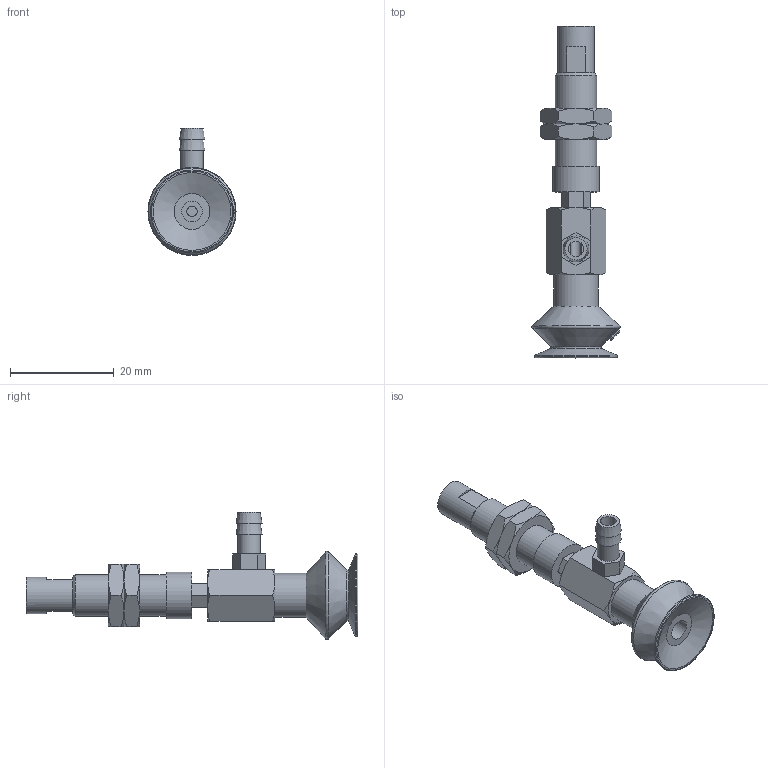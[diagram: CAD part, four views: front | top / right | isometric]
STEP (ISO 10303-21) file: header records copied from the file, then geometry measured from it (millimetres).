
FILE_DESCRIPTION(('STEP AP203'),'1');
FILE_NAME('-T.stp','2025-04-02T01:19:08',(' '),(' '),'Spatial InterOp 3D',' ',' ');
FILE_SCHEMA(('CONFIG_CONTROL_DESIGN'));
Length unit declared in the file: millimetre
Products named in the file (9): BNABPBYH-15A-3-※-T; CONNECTOR-15A-3-PB; Nut-15A-S-PB; NAPBTH-15A-3-FBODY; NAPBTH-15A-3-MBODY; BPBG-15A-※; __27; BPBG-15A; T
Assembly tree (9 placements, depth 3):
  BNABPBYH-15A-3-※-T
    CONNECTOR-15A-3-PB
    Nut-15A-S-PB  x2
    NAPBTH-15A-3-FBODY
    NAPBTH-15A-3-MBODY
    BPBG-15A-※
      __27
      BPBG-15A
    T
Bounding box: 17 x 64 x 24.5 mm (x, y, z)
Volume: 4653.7 mm3; surface area: 5267.1 mm2
Topology: 8 solids, 8 shells, 172 faces, 373 edges, 231 vertices
Faces by surface type: plane 76, cone 58, cylinder 19, torus 11, bspline 8
Full cylindrical faces by diameter (mm): 2 x1, 3 x1, 4 x3, 4.134 x2, 4.3 x1, 5 x2, 6 x2, 7 x1, 7.188 x2, 8 x1, 8.5 x1, 9 x1, 16 x1
Entity records: 5543 total; most frequent: CARTESIAN_POINT 2148, DIRECTION 597, ORIENTED_EDGE 536, EDGE_CURVE 268, AXIS2_PLACEMENT_3D 248, EDGE_LOOP 219, VERTEX_POINT 191, FACE_OUTER_BOUND 178
